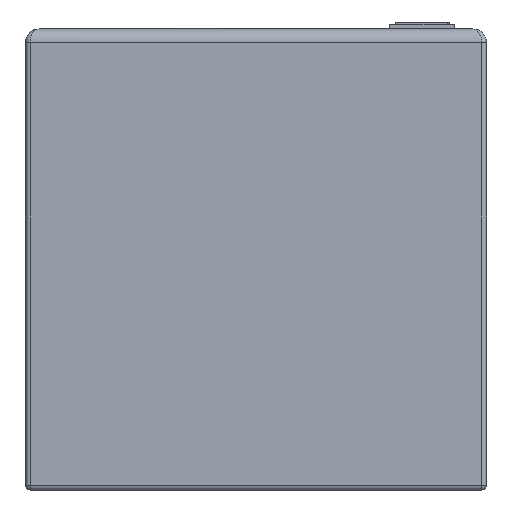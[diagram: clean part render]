
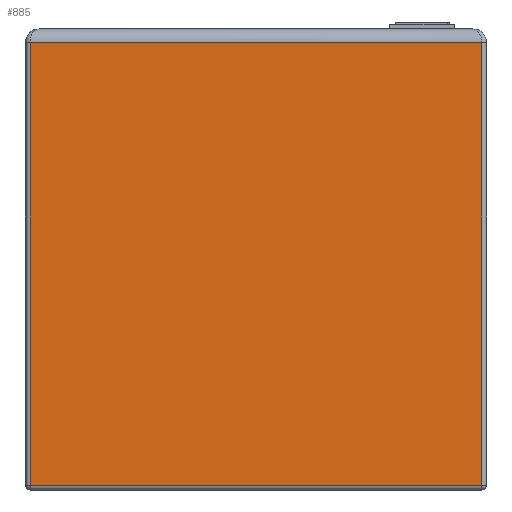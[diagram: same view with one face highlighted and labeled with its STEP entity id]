
A CAD part, left-side view. The second image highlights one B-rep face of the part: STEP entity #885.
In plain terms, the highlighted planar face has unit normal (-1, 0, 0).
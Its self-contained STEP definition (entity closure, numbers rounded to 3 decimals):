
#177=FACE_OUTER_BOUND('',#233,.T.);
#233=EDGE_LOOP('',(#766,#767,#768,#769));
#306=LINE('',#1468,#384);
#309=LINE('',#1508,#387);
#314=LINE('',#1588,#392);
#317=LINE('',#1593,#395);
#384=VECTOR('',#1191,10.);
#387=VECTOR('',#1202,10.);
#392=VECTOR('',#1225,10.);
#395=VECTOR('',#1232,10.);
#446=VERTEX_POINT('',#1395);
#453=VERTEX_POINT('',#1410);
#462=VERTEX_POINT('',#1501);
#467=VERTEX_POINT('',#1581);
#557=EDGE_CURVE('',#446,#453,#306,.T.);
#563=EDGE_CURVE('',#453,#462,#309,.T.);
#574=EDGE_CURVE('',#467,#446,#314,.T.);
#577=EDGE_CURVE('',#462,#467,#317,.T.);
#766=ORIENTED_EDGE('',*,*,#563,.F.);
#767=ORIENTED_EDGE('',*,*,#557,.F.);
#768=ORIENTED_EDGE('',*,*,#574,.F.);
#769=ORIENTED_EDGE('',*,*,#577,.F.);
#835=PLANE('',#994);
#885=ADVANCED_FACE('',(#177),#835,.T.);
#994=AXIS2_PLACEMENT_3D('',#1592,#1230,#1231);
#1191=DIRECTION('',(0.,1.,0.));
#1202=DIRECTION('',(0.,0.,1.));
#1225=DIRECTION('',(0.,0.,-1.));
#1230=DIRECTION('center_axis',(-1.,0.,0.));
#1231=DIRECTION('ref_axis',(0.,-1.,0.));
#1232=DIRECTION('',(0.,-1.,0.));
#1395=CARTESIAN_POINT('',(-40.,-49.,1.));
#1410=CARTESIAN_POINT('',(-40.,49.,1.));
#1468=CARTESIAN_POINT('',(-40.,25.,1.));
#1501=CARTESIAN_POINT('',(-40.,49.,97.));
#1508=CARTESIAN_POINT('',(-40.,49.,0.));
#1581=CARTESIAN_POINT('',(-40.,-49.,97.));
#1588=CARTESIAN_POINT('',(-40.,-49.,0.));
#1592=CARTESIAN_POINT('Origin',(-40.,50.,0.));
#1593=CARTESIAN_POINT('',(-40.,25.,97.));
